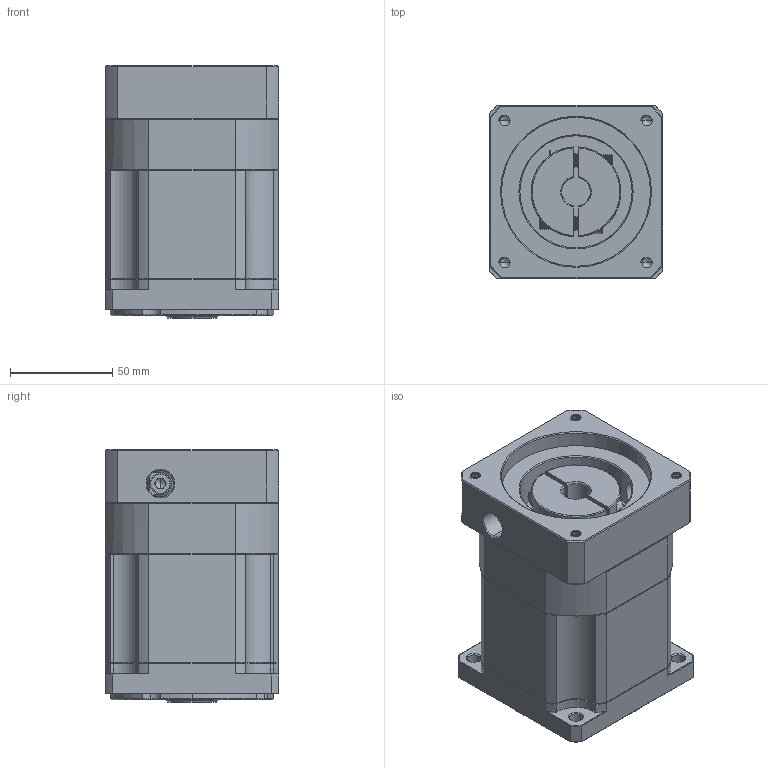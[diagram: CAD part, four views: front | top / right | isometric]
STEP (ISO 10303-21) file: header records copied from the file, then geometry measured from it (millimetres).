
FILE_DESCRIPTION (( 'STEP AP214' ), '1' );
FILE_NAME ('ZB90-K15-L2-14-73-69.5X69.5-M6.STEP', '2022-05-02T15:33:59', ( '' ), ( 'Microsoft' ), 'SwSTEP 2.0', 'SolidWorks 2016', '' );
FILE_SCHEMA (( 'AUTOMOTIVE_DESIGN' ));
Length unit declared in the file: millimetre
Products named in the file (1): ZB90-K15-L2-14-73-69.5X69.5-M6
Bounding box: 85 x 85 x 123.5 mm (x, y, z)
Volume: 710677.7 mm3; surface area: 90597.6 mm2
Topology: 4 solids, 5 shells, 1882 faces, 4918 edges, 3115 vertices
Faces by surface type: plane 879, cylinder 358, cone 328, bspline 292, torus 25
Entity records: 98998 total; most frequent: CARTESIAN_POINT 34524, ORIENTED_EDGE 9796, DIRECTION 8001, EDGE_CURVE 4898, VERTEX_POINT 3115, VECTOR 3045, LINE 3045, AXIS2_PLACEMENT_3D 2478
